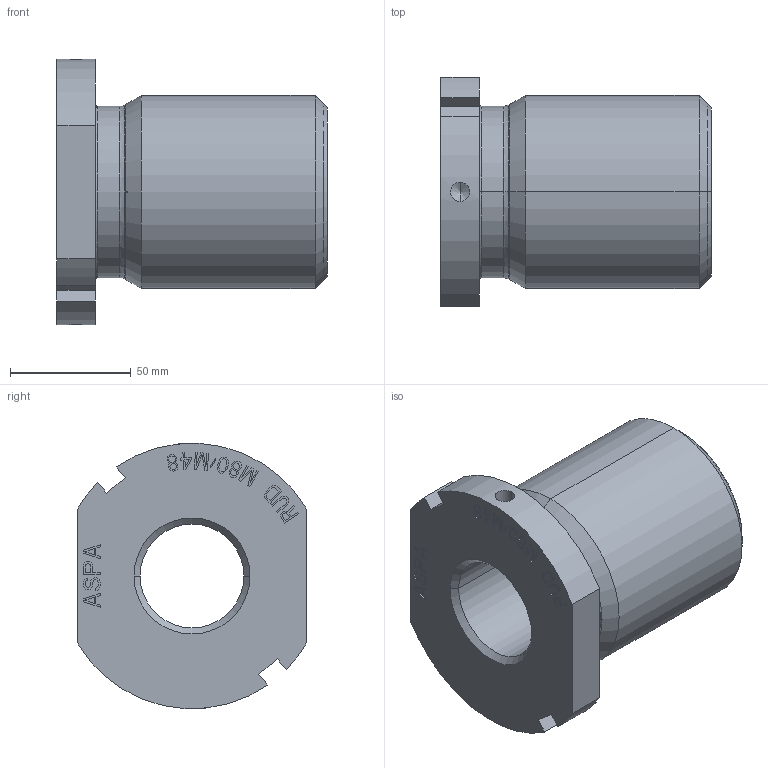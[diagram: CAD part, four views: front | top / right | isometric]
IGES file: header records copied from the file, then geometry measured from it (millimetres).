
Start section:  PTC IGES file: Gewindeadapter_ASPA_M80xM48_7900469_M32236-P-11.igs
Global section: file name: Gewindeadapter_ASPA_M80xM48_7900469_M32236-P-11.igs; native system: Pro/ENGINEER by Parametric Technology Corporation; preprocessor: 2010140; author: Andreas.Wendler; organization: Unknown; date: 20140604.094708; units: millimetre
Bounding box: 112 x 95 x 110 mm (x, y, z)
Volume: 438883.6 mm3; surface area: 324681.8 mm2
Topology: 1 solids, 3 shells, 472 faces, 1370 edges, 972 vertices
Faces by surface type: bspline 434, revolution 38
